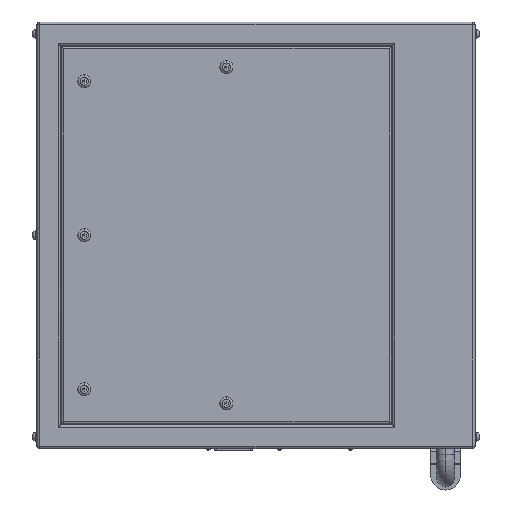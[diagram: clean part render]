
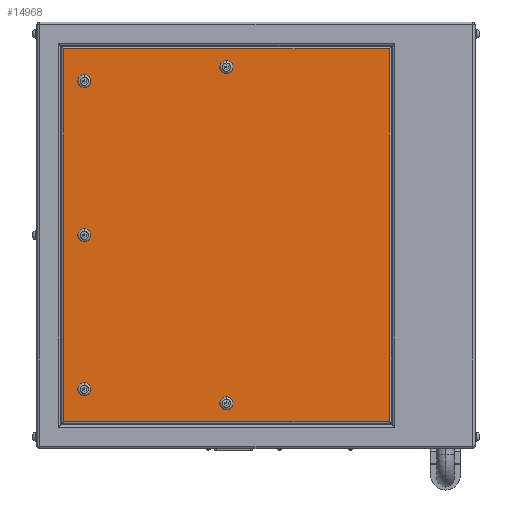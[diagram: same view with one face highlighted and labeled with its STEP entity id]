
A CAD part, left-side view. The second image highlights one B-rep face of the part: STEP entity #14968.
In plain terms, the highlighted planar face has unit normal (-1, 0, 0).
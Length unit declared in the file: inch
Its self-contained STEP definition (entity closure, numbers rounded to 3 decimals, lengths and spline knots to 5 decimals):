
#132 = CIRCLE ( 'NONE', #1292, 0.55 ) ;
#228 = DIRECTION ( 'NONE',  ( 1., 0., 0. ) ) ;
#277 = FACE_BOUND ( 'NONE', #11970, .T. ) ;
#586 = CARTESIAN_POINT ( 'NONE',  ( -11., 18.5, 15.74 ) ) ;
#631 = CARTESIAN_POINT ( 'NONE',  ( -11., 18.5, -18. ) ) ;
#864 = EDGE_CURVE ( 'NONE', #14854, #17327, #1636, .T. ) ;
#978 = CIRCLE ( 'NONE', #7113, 0.55 ) ;
#1121 = ORIENTED_EDGE ( 'NONE', *, *, #12952, .T. ) ;
#1246 = CARTESIAN_POINT ( 'NONE',  ( -11., 14.5, -12.45 ) ) ;
#1292 = AXIS2_PLACEMENT_3D ( 'NONE', #12124, #15906, #4590 ) ;
#1341 = DIRECTION ( 'NONE',  ( 0., 0., -1. ) ) ;
#1636 = CIRCLE ( 'NONE', #18064, 0.55 ) ;
#1706 = AXIS2_PLACEMENT_3D ( 'NONE', #9380, #3383, #3725 ) ;
#1832 = CARTESIAN_POINT ( 'NONE',  ( -11., 2.5, -13.64 ) ) ;
#1876 = CARTESIAN_POINT ( 'NONE',  ( -11., 2.5, -14.74 ) ) ;
#1889 = ORIENTED_EDGE ( 'NONE', *, *, #10262, .T. ) ;
#2101 = CARTESIAN_POINT ( 'NONE',  ( -11., 14.5, 0.55 ) ) ;
#2126 = DIRECTION ( 'NONE',  ( 1., 0., 0. ) ) ;
#2249 = LINE ( 'NONE', #586, #16022 ) ;
#2316 = AXIS2_PLACEMENT_3D ( 'NONE', #13737, #21199, #2871 ) ;
#2390 = CARTESIAN_POINT ( 'NONE',  ( -11., 16.24, -15.74 ) ) ;
#2421 = PLANE ( 'NONE',  #18396 ) ;
#2681 = VERTEX_POINT ( 'NONE', #8113 ) ;
#2742 = DIRECTION ( 'NONE',  ( 0., -1., 0. ) ) ;
#2758 = EDGE_LOOP ( 'NONE', ( #20134, #12921 ) ) ;
#2849 = EDGE_CURVE ( 'NONE', #22020, #22055, #20848, .T. ) ;
#2861 = VECTOR ( 'NONE', #16767, 39.37008 ) ;
#2871 = DIRECTION ( 'NONE',  ( 0., 0., -1. ) ) ;
#3162 = AXIS2_PLACEMENT_3D ( 'NONE', #13635, #20748, #18726 ) ;
#3383 = DIRECTION ( 'NONE',  ( 1., 0., 0. ) ) ;
#3567 = EDGE_CURVE ( 'NONE', #12638, #9874, #6924, .T. ) ;
#3619 = EDGE_CURVE ( 'NONE', #5814, #10638, #2249, .T. ) ;
#3725 = DIRECTION ( 'NONE',  ( 0., 0., -1. ) ) ;
#3967 = FACE_BOUND ( 'NONE', #18206, .T. ) ;
#4037 = DIRECTION ( 'NONE',  ( 0., 0., -1. ) ) ;
#4086 = FACE_BOUND ( 'NONE', #2758, .T. ) ;
#4200 = FACE_BOUND ( 'NONE', #23136, .T. ) ;
#4590 = DIRECTION ( 'NONE',  ( 0., 0., -1. ) ) ;
#5040 = CIRCLE ( 'NONE', #18346, 0.55 ) ;
#5134 = CARTESIAN_POINT ( 'NONE',  ( -11., 14.5, -13.55 ) ) ;
#5329 = CARTESIAN_POINT ( 'NONE',  ( -11., 14.5, -0.55 ) ) ;
#5334 = ORIENTED_EDGE ( 'NONE', *, *, #18565, .T. ) ;
#5389 = ORIENTED_EDGE ( 'NONE', *, *, #864, .T. ) ;
#5536 = CIRCLE ( 'NONE', #1706, 0.55 ) ;
#5782 = EDGE_CURVE ( 'NONE', #15869, #7136, #22531, .T. ) ;
#5814 = VERTEX_POINT ( 'NONE', #7995 ) ;
#6861 = VECTOR ( 'NONE', #2742, 39.37008 ) ;
#6924 = CIRCLE ( 'NONE', #2316, 0.55 ) ;
#7029 = VERTEX_POINT ( 'NONE', #7338 ) ;
#7113 = AXIS2_PLACEMENT_3D ( 'NONE', #9423, #2126, #14538 ) ;
#7136 = VERTEX_POINT ( 'NONE', #1832 ) ;
#7338 = CARTESIAN_POINT ( 'NONE',  ( -11., 2.5, 14.74 ) ) ;
#7502 = EDGE_CURVE ( 'NONE', #17327, #14854, #19518, .T. ) ;
#7646 = ORIENTED_EDGE ( 'NONE', *, *, #3567, .T. ) ;
#7902 = DIRECTION ( 'NONE',  ( 1., 0., 0. ) ) ;
#7995 = CARTESIAN_POINT ( 'NONE',  ( -11., -11.24, 15.74 ) ) ;
#8113 = CARTESIAN_POINT ( 'NONE',  ( -11., 2.5, 13.64 ) ) ;
#8272 = DIRECTION ( 'NONE',  ( 0., 0., -1. ) ) ;
#8345 = LINE ( 'NONE', #19059, #23374 ) ;
#8371 = ORIENTED_EDGE ( 'NONE', *, *, #2849, .T. ) ;
#8604 = ORIENTED_EDGE ( 'NONE', *, *, #21764, .T. ) ;
#8700 = EDGE_CURVE ( 'NONE', #2681, #7029, #14811, .T. ) ;
#9162 = CARTESIAN_POINT ( 'NONE',  ( -11., 16.24, 15.74 ) ) ;
#9380 = CARTESIAN_POINT ( 'NONE',  ( -11., 14.5, 0. ) ) ;
#9423 = CARTESIAN_POINT ( 'NONE',  ( -11., 14.5, -13. ) ) ;
#9525 = ORIENTED_EDGE ( 'NONE', *, *, #8700, .T. ) ;
#9534 = CARTESIAN_POINT ( 'NONE',  ( -11., -11.24, -18. ) ) ;
#9874 = VERTEX_POINT ( 'NONE', #1246 ) ;
#10096 = DIRECTION ( 'NONE',  ( 1., 0., 0. ) ) ;
#10114 = EDGE_CURVE ( 'NONE', #10638, #22020, #8345, .T. ) ;
#10182 = CARTESIAN_POINT ( 'NONE',  ( -11., 2.5, 14.19 ) ) ;
#10209 = CARTESIAN_POINT ( 'NONE',  ( -11., 14.5, 13.55 ) ) ;
#10210 = CARTESIAN_POINT ( 'NONE',  ( -11., 14.5, 13. ) ) ;
#10262 = EDGE_CURVE ( 'NONE', #9874, #12638, #978, .T. ) ;
#10546 = DIRECTION ( 'NONE',  ( 1., 0., 0. ) ) ;
#10638 = VERTEX_POINT ( 'NONE', #9162 ) ;
#11266 = FACE_OUTER_BOUND ( 'NONE', #12140, .T. ) ;
#11970 = EDGE_LOOP ( 'NONE', ( #9525, #8604 ) ) ;
#12124 = CARTESIAN_POINT ( 'NONE',  ( -11., 14.5, 0. ) ) ;
#12140 = EDGE_LOOP ( 'NONE', ( #8371, #1121, #14310, #19704 ) ) ;
#12638 = VERTEX_POINT ( 'NONE', #5134 ) ;
#12921 = ORIENTED_EDGE ( 'NONE', *, *, #14096, .T. ) ;
#12952 = EDGE_CURVE ( 'NONE', #22055, #5814, #21788, .T. ) ;
#13635 = CARTESIAN_POINT ( 'NONE',  ( -11., 2.5, -14.19 ) ) ;
#13737 = CARTESIAN_POINT ( 'NONE',  ( -11., 14.5, -13. ) ) ;
#14096 = EDGE_CURVE ( 'NONE', #7136, #15869, #5040, .T. ) ;
#14310 = ORIENTED_EDGE ( 'NONE', *, *, #3619, .T. ) ;
#14538 = DIRECTION ( 'NONE',  ( 0., 0., -1. ) ) ;
#14615 = CARTESIAN_POINT ( 'NONE',  ( -11., 14.5, 12.45 ) ) ;
#14811 = CIRCLE ( 'NONE', #21614, 0.55 ) ;
#14854 = VERTEX_POINT ( 'NONE', #10209 ) ;
#14968 = ADVANCED_FACE ( 'NONE', ( #4086, #277, #18519, #4200, #3967, #11266 ), #2421, .F. ) ;
#15172 = DIRECTION ( 'NONE',  ( 0., 0., -1. ) ) ;
#15174 = ORIENTED_EDGE ( 'NONE', *, *, #7502, .T. ) ;
#15722 = CARTESIAN_POINT ( 'NONE',  ( -11., 2.5, -14.19 ) ) ;
#15869 = VERTEX_POINT ( 'NONE', #1876 ) ;
#15906 = DIRECTION ( 'NONE',  ( 1., 0., 0. ) ) ;
#16022 = VECTOR ( 'NONE', #16425, 39.37008 ) ;
#16103 = CIRCLE ( 'NONE', #18772, 0.55 ) ;
#16425 = DIRECTION ( 'NONE',  ( 0., 1., 0. ) ) ;
#16767 = DIRECTION ( 'NONE',  ( 0., 0., 1. ) ) ;
#17207 = AXIS2_PLACEMENT_3D ( 'NONE', #10210, #10096, #20682 ) ;
#17256 = DIRECTION ( 'NONE',  ( 0., 0., -1. ) ) ;
#17327 = VERTEX_POINT ( 'NONE', #14615 ) ;
#17401 = DIRECTION ( 'NONE',  ( 1., 0., 0. ) ) ;
#18064 = AXIS2_PLACEMENT_3D ( 'NONE', #18586, #228, #4037 ) ;
#18206 = EDGE_LOOP ( 'NONE', ( #15174, #5389 ) ) ;
#18346 = AXIS2_PLACEMENT_3D ( 'NONE', #15722, #20828, #22810 ) ;
#18396 = AXIS2_PLACEMENT_3D ( 'NONE', #631, #7902, #15172 ) ;
#18519 = FACE_BOUND ( 'NONE', #21137, .T. ) ;
#18565 = EDGE_CURVE ( 'NONE', #21330, #19845, #5536, .T. ) ;
#18586 = CARTESIAN_POINT ( 'NONE',  ( -11., 14.5, 13. ) ) ;
#18726 = DIRECTION ( 'NONE',  ( 0., 0., 1. ) ) ;
#18772 = AXIS2_PLACEMENT_3D ( 'NONE', #21228, #10546, #8272 ) ;
#19059 = CARTESIAN_POINT ( 'NONE',  ( -11., 16.24, -18. ) ) ;
#19073 = CARTESIAN_POINT ( 'NONE',  ( -11., -11.24, -15.74 ) ) ;
#19518 = CIRCLE ( 'NONE', #17207, 0.55 ) ;
#19704 = ORIENTED_EDGE ( 'NONE', *, *, #10114, .T. ) ;
#19845 = VERTEX_POINT ( 'NONE', #2101 ) ;
#20003 = EDGE_CURVE ( 'NONE', #19845, #21330, #132, .T. ) ;
#20134 = ORIENTED_EDGE ( 'NONE', *, *, #5782, .T. ) ;
#20682 = DIRECTION ( 'NONE',  ( 0., 0., -1. ) ) ;
#20748 = DIRECTION ( 'NONE',  ( 1., 0., 0. ) ) ;
#20813 = ORIENTED_EDGE ( 'NONE', *, *, #20003, .T. ) ;
#20828 = DIRECTION ( 'NONE',  ( 1., 0., 0. ) ) ;
#20848 = LINE ( 'NONE', #22611, #6861 ) ;
#21137 = EDGE_LOOP ( 'NONE', ( #7646, #1889 ) ) ;
#21199 = DIRECTION ( 'NONE',  ( 1., 0., 0. ) ) ;
#21228 = CARTESIAN_POINT ( 'NONE',  ( -11., 2.5, 14.19 ) ) ;
#21330 = VERTEX_POINT ( 'NONE', #5329 ) ;
#21614 = AXIS2_PLACEMENT_3D ( 'NONE', #10182, #17401, #1341 ) ;
#21764 = EDGE_CURVE ( 'NONE', #7029, #2681, #16103, .T. ) ;
#21788 = LINE ( 'NONE', #9534, #2861 ) ;
#22020 = VERTEX_POINT ( 'NONE', #2390 ) ;
#22055 = VERTEX_POINT ( 'NONE', #19073 ) ;
#22531 = CIRCLE ( 'NONE', #3162, 0.55 ) ;
#22611 = CARTESIAN_POINT ( 'NONE',  ( -11., 18.5, -15.74 ) ) ;
#22810 = DIRECTION ( 'NONE',  ( 0., 0., 1. ) ) ;
#23136 = EDGE_LOOP ( 'NONE', ( #5334, #20813 ) ) ;
#23374 = VECTOR ( 'NONE', #17256, 39.37008 ) ;
